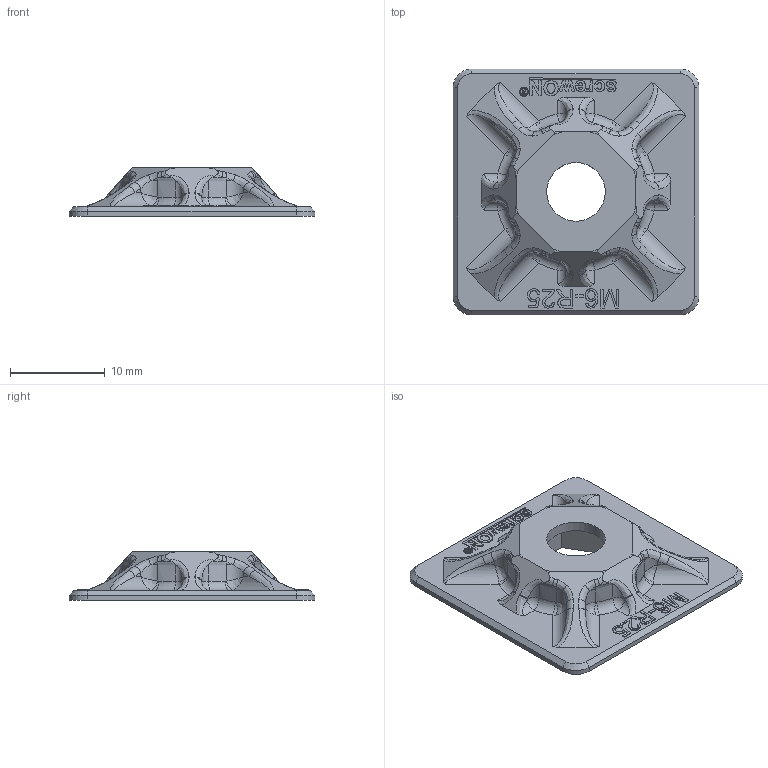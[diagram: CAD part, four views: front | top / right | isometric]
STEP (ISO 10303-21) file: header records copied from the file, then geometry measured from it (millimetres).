
FILE_DESCRIPTION(/* description */ (''),/* implementation_level */ '2;1');
FILE_NAME(/* name */ 'ScrewON Halter Eckig 25mm.step',/* time_stamp */ '2023-02-27T09:23:36+01:00',/* author */ (''),/* organization */ (''),/* preprocessor_version */ 'ST-DEVELOPER v19.2',/* originating_system */ 'Autodesk Translation Framework v11.17.0.187',/* authorisation */ '');
FILE_SCHEMA (('AUTOMOTIVE_DESIGN { 1 0 10303 214 3 1 1 }'));
Length unit declared in the file: millimetre
Products named in the file (1): Screw_ON_V2_M6-R25_LT
Bounding box: 26 x 26 x 5.1 mm (x, y, z)
Volume: 1120 mm3; surface area: 1702.3 mm2
Topology: 1 solids, 1 shells, 481 faces, 1269 edges, 806 vertices
Faces by surface type: bspline 229, plane 147, cylinder 61, torus 32, sphere 8, cone 4
Full cylindrical faces by diameter (mm): 6.2 x1
Entity records: 18039 total; most frequent: CARTESIAN_POINT 7380, ORIENTED_EDGE 2522, DIRECTION 1675, EDGE_CURVE 1261, VERTEX_POINT 806, LINE 573, VECTOR 573, AXIS2_PLACEMENT_3D 551
